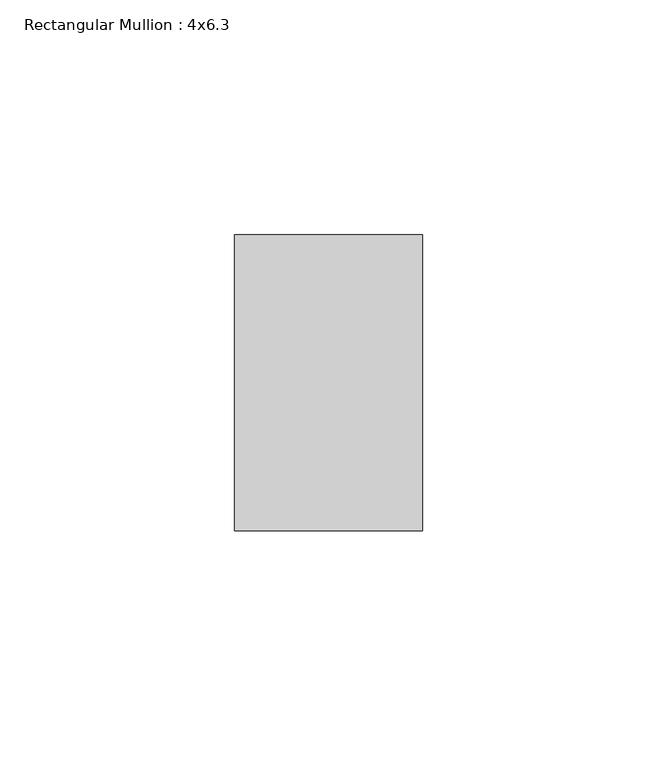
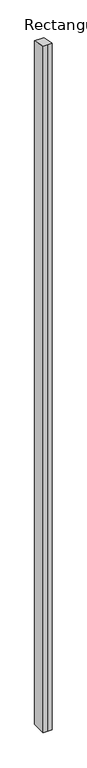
"""IFC4 building model written with IfcOpenShell, lengths in millimetres: member geometry, Rectangular Mullion : 4x6.3."""

from ifc_helpers import new_model, si_unit, origin, place, context, project, spatial, faceted_brep, source, transform, mapped, element, save


def rectangular_mullion_4x6_3_249dc313(model_context):
    return source(origin(), model_context, "Body", "Brep", [
        faceted_brep([(-20.0, 20.0, -3187.74383), (-20.0, 83.0, -3187.74383), (20.0, 83.0, -3187.74383), (20.0, 20.0, -3187.74383), (0.0, 20.0, -3187.74383), (0.0, 20.0, -4.3995804), (-20.0, 20.0, -4.3995804), (20.0, 20.0, -4.3995804), (20.0, 83.0, -18.2582585), (-20.0, 83.0, -18.2582585)], [[[0, 1, 2, 3, 4]], [[5, 6, 0, 4]], [[7, 5, 4, 3]], [[8, 7, 3, 2]], [[9, 8, 2, 1]], [[6, 9, 1, 0]], [[6, 5, 7, 8, 9]]]),
    ])


if __name__ == "__main__":
    model = new_model("IFC4")
    model_context = context("Model", 3, world=origin())
    ifc_project = project(units=[si_unit("LENGTHUNIT", "METRE", prefix="MILLI")], contexts=[model_context])
    site = spatial("IfcSite", under=ifc_project)
    building = spatial("IfcBuilding", under=site)
    placement = place(None, origin())
    rectangular_mullion_4x6_3_shape = rectangular_mullion_4x6_3_249dc313(model_context)
    element("IfcMember", 1, ObjectType="Rectangular Mullion : 4x6.3", at=placement, inside=building, context=model_context, shape_type="MappedRepresentation", body=[
        mapped(rectangular_mullion_4x6_3_shape, transform((0.0, 0.0, 0.0), x_axis=(1.0, 0.0, 0.0), y_axis=(0.0, 1.0, 0.0), z_axis=(0.0, 0.0, 1.0))),
    ])
    save(model, "model.ifc")
